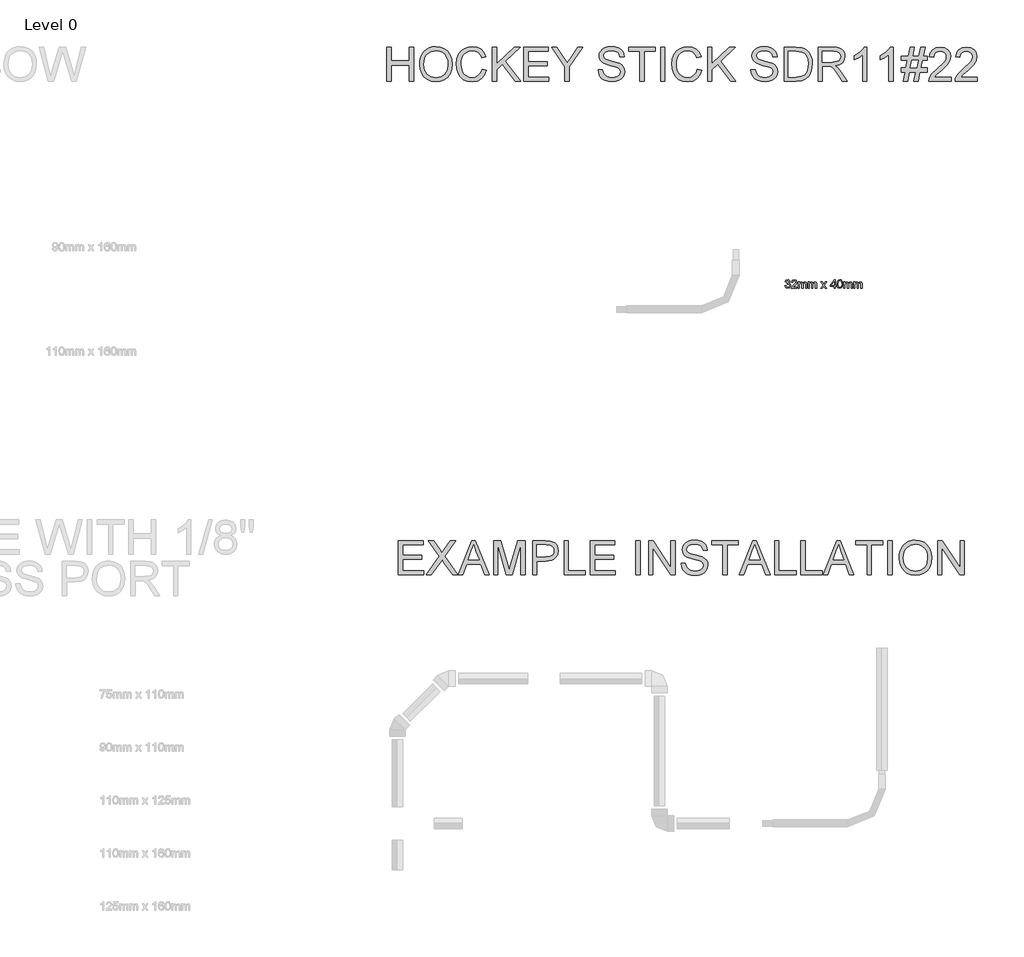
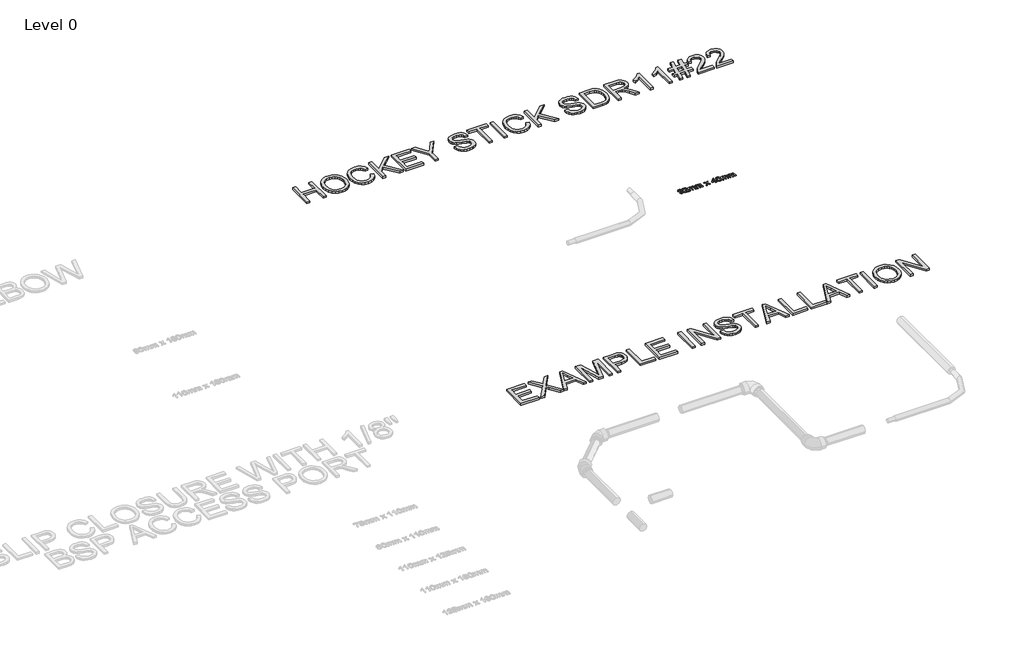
# One storey, part 18 of 21: 3 proxies.
"""IFC4 building model written with IfcOpenShell, lengths in millimetres."""

from ifc_helpers import new_model, si_unit, origin, origin_with_axes, place, context, project, spatial, polyline, outline, extrude, element, save

model = new_model("IFC4")

# Units and contexts
model_context = context("Model", 3, world=origin())
ifc_project = project(units=[si_unit("LENGTHUNIT", "METRE", prefix="MILLI")], contexts=[model_context])

# Site, building, storey
site = spatial("IfcSite", under=ifc_project)
building = spatial("IfcBuilding", under=site)
storey = spatial("IfcBuildingStorey", under=building, Name="Level 0", Elevation=0.0)

# Proxies
placement = place(None, origin())
element("IfcBuildingElementProxy", 1, Name="200mm Arial", ObjectType="200mm Arial", at=placement, inside=storey, context=model_context, shape_type="SweptSolid", body=[
    extrude(outline(polyline([(228.9000811, -1553.2112631), (228.9000811, -1352.2986428), (254.0141586, -1352.2986428), (254.0141586, -1433.9193948), (360.7489882, -1433.9193948), (360.7489882, -1352.2986428), (385.8630657, -1352.2986428), (385.8630657, -1553.2112631), (360.7489882, -1553.2112631), (360.7489882, -1459.0334723), (254.0141586, -1459.0334723), (254.0141586, -1553.2112631), (228.9000811, -1553.2112631)])), origin_with_axes(), (0.0, 0.0, 1.0), 15.0),
    extrude(outline(polyline([(420.3949223, -1455.4037033), (422.0687854, -1431.8377958), (427.0903746, -1410.975821), (435.45969, -1392.8177789), (447.1767316, -1377.3636694), (461.5394578, -1365.0242941), (477.8458272, -1356.2104547), (496.0958399, -1350.922151), (516.2894957, -1349.1593831), (542.6421093, -1352.4703211), (566.2723961, -1362.4031349), (585.8927692, -1378.2588489), (600.2156416, -1399.3384872), (608.971233, -1424.624243), (611.8897635, -1453.0983095), (608.8179489, -1481.9525206), (599.6025049, -1507.5938957), (584.752335, -1528.7103222), (564.7763427, -1543.9896877), (541.348391, -1553.260314), (516.1423429, -1556.3505228), (489.3850591, -1552.9353516), (465.6198822, -1542.689838), (446.0485601, -1526.5398184), (431.8728406, -1505.4111292), (423.2644019, -1481.1002607), (420.3949223, -1455.4037033)]), holes=[polyline([(445.5089998, -1455.648958), (450.5305891, -1487.0783431), (465.5953568, -1511.027461), (488.2384936, -1526.1841992), (515.9951901, -1531.2364452), (544.1565569, -1526.1351482), (566.8364819, -1510.8312572), (575.5598837, -1499.5587398), (581.790885, -1486.1463754), (586.775686, -1452.9021057), (584.6419704, -1430.6697705), (578.2408237, -1411.4540676), (567.7377927, -1395.7393751), (553.2984244, -1384.0100708), (535.879212, -1376.7076132), (516.4366485, -1374.2734606), (489.4218473, -1378.9639561), (466.4537481, -1393.0354424), (457.2904207, -1403.9845303), (450.7451869, -1418.0698122), (445.5089998, -1455.648958)])]), origin_with_axes(), (0.0, 0.0, 1.0), 15.0),
    extrude(outline(polyline([(787.6883063, -1481.7931051), (812.8023838, -1488.2678282), (801.214101, -1517.5328409), (783.0284677, -1538.9129162), (759.1406635, -1551.9911211), (730.4458678, -1556.3505228), (701.3157452, -1553.0518476), (678.1820991, -1543.1558219), (660.4501869, -1527.0058023), (647.5252661, -1504.9451453), (639.6341973, -1479.0094647), (637.0038411, -1451.234374), (639.9775539, -1421.9387045), (648.8986922, -1396.6406859), (663.3012724, -1376.1435274), (682.7193103, -1361.250438), (705.7487232, -1352.1821468), (730.9854281, -1349.1593831), (758.5213954, -1353.071195), (781.2871596, -1364.8066306), (798.571482, -1383.6421888), (809.6631241, -1408.8543682), (784.5490466, -1414.838582), (775.842506, -1396.52419), (763.9476549, -1383.9610198), (748.7173403, -1376.6953504), (730.0044095, -1374.2734606), (708.4342618, -1376.9589992), (690.7146124, -1385.0156149), (677.2685254, -1397.5971791), (668.5190653, -1413.8575633), (663.7182053, -1432.2394003), (662.1179186, -1451.1853231), (664.0125109, -1474.3864143), (669.6962877, -1494.4482457), (679.3838469, -1510.6043967), (693.2897863, -1522.0884463), (709.9609721, -1528.9494455), (727.9442703, -1531.2364452), (748.9074126, -1528.121711), (766.375676, -1518.7775083), (779.5642456, -1503.3019391), (787.6883063, -1481.7931051)])), origin_with_axes(), (0.0, 0.0, 1.0), 15.0),
    extrude(outline(polyline([(847.3342404, -1553.2112631), (847.3342404, -1352.2986428), (872.448318, -1352.2986428), (872.448318, -1450.6457628), (975.4552766, -1352.2986428), (1010.5757444, -1352.2986428), (924.0989501, -1434.9004134), (1013.7150041, -1553.2112631), (983.0091203, -1553.2112631), (906.2934615, -1451.8720362), (872.448318, -1484.1475499), (872.448318, -1553.2112631), (847.3342404, -1553.2112631)])), origin_with_axes(), (0.0, 0.0, 1.0), 15.0),
    extrude(outline(polyline([(1032.5505623, -1553.2112631), (1032.5505623, -1352.2986428), (1176.9565081, -1352.2986428), (1176.9565081, -1377.4127203), (1057.6646398, -1377.4127203), (1057.6646398, -1437.0586545), (1170.6779887, -1437.0586545), (1170.6779887, -1462.172732), (1057.6646398, -1462.172732), (1057.6646398, -1528.0971856), (1180.0957678, -1528.0971856), (1180.0957678, -1553.2112631), (1032.5505623, -1553.2112631)])), origin_with_axes(), (0.0, 0.0, 1.0), 15.0),
    extrude(outline(polyline([(1274.2735586, -1553.2112631), (1274.2735586, -1468.1078949), (1195.7920663, -1352.2986428), (1225.4188296, -1352.2986428), (1267.3083261, -1414.1518689), (1288.7435837, -1445.6916186), (1310.2278922, -1411.895526), (1348.2423651, -1352.2986428), (1377.8691284, -1352.2986428), (1299.3876361, -1468.1078949), (1299.3876361, -1553.2112631), (1274.2735586, -1553.2112631)])), origin_with_axes(), (0.0, 0.0, 1.0), 15.0),
    extrude(outline(polyline([(1468.9076595, -1484.1475499), (1494.021737, -1484.1475499), (1502.1151409, -1509.2861529), (1510.245333, -1518.1766344), (1521.8826668, -1525.1786551), (1536.1074373, -1529.7219977), (1551.9999395, -1531.2364452), (1578.2421885, -1526.650183), (1595.1892857, -1514.0440933), (1600.7565666, -1497.195098), (1596.5872373, -1481.523325), (1590.2351415, -1475.3245133), (1579.5175127, -1470.1189831), (1542.9500424, -1460.5295258), (1503.5866689, -1448.1441653), (1491.0848124, -1439.6951421), (1482.2249877, -1429.4557599), (1476.9458811, -1417.6467479), (1475.1861789, -1404.4888352), (1477.362814, -1389.7796867), (1483.8927194, -1376.0638197), (1494.6042169, -1364.4387486), (1509.325628, -1356.0019882), (1526.9962265, -1350.8700344), (1546.5552859, -1349.1593831), (1567.7452889, -1350.9497421), (1586.2865414, -1356.3208193), (1601.516856, -1365.1622499), (1612.7740451, -1377.3636694), (1619.898693, -1392.1647883), (1622.7313844, -1408.8053173), (1597.6173069, -1408.8053173), (1593.0065192, -1393.8202573), (1583.3925364, -1383.0045267), (1568.3706883, -1376.4562271), (1547.5363046, -1374.2734606), (1526.2114116, -1376.4317017), (1511.5819709, -1382.9064248), (1503.120685, -1392.4345685), (1500.3002564, -1403.7530712), (1502.2990819, -1413.4038422), (1508.2955584, -1421.1661523), (1522.471278, -1428.1068593), (1549.3021382, -1435.194719), (1593.7422832, -1447.8008087), (1608.0590242, -1456.9120195), (1618.0470203, -1468.1569458), (1623.9147382, -1481.4129604), (1625.8706441, -1496.5574358), (1623.6204326, -1512.0391365), (1616.869798, -1526.6011321), (1605.8946518, -1539.1336454), (1590.9709055, -1548.526899), (1573.0243955, -1554.3946168), (1552.9809581, -1556.3505228), (1528.375784, -1554.2413327), (1508.1238802, -1547.9137624), (1491.9922547, -1537.3432864), (1479.7479156, -1522.5053792), (1471.8875037, -1504.4301105), (1468.9076595, -1484.1475499)])), origin_with_axes(), (0.0, 0.0, 1.0), 15.0),
    extrude(outline(polyline([(1713.7699155, -1553.2112631), (1713.7699155, -1377.4127203), (1647.8454619, -1377.4127203), (1647.8454619, -1352.2986428), (1804.8084466, -1352.2986428), (1804.8084466, -1377.4127203), (1738.883993, -1377.4127203), (1738.883993, -1553.2112631), (1713.7699155, -1553.2112631)])), origin_with_axes(), (0.0, 0.0, 1.0), 15.0),
    extrude(outline(polyline([(1836.2010435, -1553.2112631), (1836.2010435, -1352.2986428), (1861.315121, -1352.2986428), (1861.315121, -1553.2112631), (1836.2010435, -1553.2112631)])), origin_with_axes(), (0.0, 0.0, 1.0), 15.0),
    extrude(outline(polyline([(2052.8099622, -1481.7931051), (2077.9240398, -1488.2678282), (2066.3357569, -1517.5328409), (2048.1501236, -1538.9129162), (2024.2623194, -1551.9911211), (1995.5675238, -1556.3505228), (1966.4374011, -1553.0518476), (1943.303755, -1543.1558219), (1925.5718428, -1527.0058023), (1912.6469221, -1504.9451453), (1904.7558533, -1479.0094647), (1902.125497, -1451.234374), (1905.0992098, -1421.9387045), (1914.0203482, -1396.6406859), (1928.4229283, -1376.1435274), (1947.8409663, -1361.250438), (1970.8703792, -1352.1821468), (1996.1070841, -1349.1593831), (2023.6430514, -1353.071195), (2046.4088155, -1364.8066306), (2063.6931379, -1383.6421888), (2074.7847801, -1408.8543682), (2049.6707025, -1414.838582), (2040.964162, -1396.52419), (2029.0693108, -1383.9610198), (2013.8389962, -1376.6953504), (1995.1260654, -1374.2734606), (1973.5559177, -1376.9589992), (1955.8362683, -1385.0156149), (1942.3901814, -1397.5971791), (1933.6407213, -1413.8575633), (1928.8398612, -1432.2394003), (1927.2395746, -1451.1853231), (1929.1341668, -1474.3864143), (1934.8179437, -1494.4482457), (1944.5055029, -1510.6043967), (1958.4114423, -1522.0884463), (1975.082628, -1528.9494455), (1993.0659262, -1531.2364452), (2014.0290686, -1528.121711), (2031.497332, -1518.7775083), (2044.6859015, -1503.3019391), (2052.8099622, -1481.7931051)])), origin_with_axes(), (0.0, 0.0, 1.0), 15.0),
    extrude(outline(polyline([(2112.4558964, -1553.2112631), (2112.4558964, -1352.2986428), (2137.5699739, -1352.2986428), (2137.5699739, -1450.6457628), (2240.5769326, -1352.2986428), (2275.6974004, -1352.2986428), (2189.2206061, -1434.9004134), (2278.8366601, -1553.2112631), (2248.1307762, -1553.2112631), (2171.4151175, -1451.8720362), (2137.5699739, -1484.1475499), (2137.5699739, -1553.2112631), (2112.4558964, -1553.2112631)])), origin_with_axes(), (0.0, 0.0, 1.0), 15.0),
    extrude(outline(polyline([(2366.7359315, -1484.1475499), (2391.850009, -1484.1475499), (2399.9434129, -1509.2861529), (2408.073605, -1518.1766344), (2419.7109388, -1525.1786551), (2433.9357092, -1529.7219977), (2449.8282114, -1531.2364452), (2476.0704604, -1526.650183), (2493.0175577, -1514.0440933), (2498.5848385, -1497.195098), (2494.4155093, -1481.523325), (2488.0634135, -1475.3245133), (2477.3457847, -1470.1189831), (2440.7783144, -1460.5295258), (2401.4149409, -1448.1441653), (2388.9130844, -1439.6951421), (2380.0532597, -1429.4557599), (2374.7741531, -1417.6467479), (2373.0144508, -1404.4888352), (2375.191086, -1389.7796867), (2381.7209914, -1376.0638197), (2392.4324888, -1364.4387486), (2407.1539, -1356.0019882), (2424.8244985, -1350.8700344), (2444.3835579, -1349.1593831), (2465.5735608, -1350.9497421), (2484.1148134, -1356.3208193), (2499.345128, -1365.1622499), (2510.602317, -1377.3636694), (2517.726965, -1392.1647883), (2520.5596564, -1408.8053173), (2495.4455788, -1408.8053173), (2490.8347912, -1393.8202573), (2481.2208084, -1383.0045267), (2466.1989602, -1376.4562271), (2445.3645766, -1374.2734606), (2424.0396836, -1376.4317017), (2409.4102429, -1382.9064248), (2400.948957, -1392.4345685), (2398.1285284, -1403.7530712), (2400.1273539, -1413.4038422), (2406.1238304, -1421.1661523), (2420.29955, -1428.1068593), (2447.1304101, -1435.194719), (2491.5705552, -1447.8008087), (2505.8872961, -1456.9120195), (2515.8752923, -1468.1569458), (2521.7430101, -1481.4129604), (2523.6989161, -1496.5574358), (2521.4487045, -1512.0391365), (2514.6980699, -1526.6011321), (2503.7229237, -1539.1336454), (2488.7991775, -1548.526899), (2470.8526675, -1554.3946168), (2450.8092301, -1556.3505228), (2426.204056, -1554.2413327), (2405.9521521, -1547.9137624), (2389.8205267, -1537.3432864), (2377.5761876, -1522.5053792), (2369.7157756, -1504.4301105), (2366.7359315, -1484.1475499)])), origin_with_axes(), (0.0, 0.0, 1.0), 15.0),
    extrude(outline(polyline([(2561.3700324, -1553.2112631), (2561.3700324, -1352.2986428), (2630.6790003, -1352.2986428), (2666.5352321, -1355.1926478), (2682.5503616, -1360.7721914), (2696.0638935, -1369.5645711), (2709.9575702, -1384.8684621), (2719.8535959, -1403.900224), (2725.776496, -1426.2919748), (2727.7507961, -1451.6758324), (2722.4042444, -1492.2164283), (2708.6699832, -1521.4753096), (2690.3249344, -1539.6977311), (2666.3145029, -1549.7776978), (2634.0144637, -1553.2112631), (2561.3700324, -1553.2112631)]), holes=[polyline([(2586.4841099, -1528.0971856), (2630.9242549, -1528.0971856), (2663.2488196, -1524.4674165), (2681.888174, -1514.2157716), (2690.6131086, -1503.3448586), (2697.1675395, -1489.2733723), (2701.2694238, -1471.939999), (2702.6367185, -1451.283425), (2699.9573113, -1423.9130045), (2691.9190897, -1403.7040203), (2680.0426327, -1389.8226063), (2665.848519, -1381.4348968), (2630.2375419, -1377.4127203), (2586.4841099, -1377.4127203), (2586.4841099, -1528.0971856)])]), origin_with_axes(), (0.0, 0.0, 1.0), 15.0),
    extrude(outline(polyline([(2762.2826527, -1553.2112631), (2762.2826527, -1352.2986428), (2848.8575489, -1352.2986428), (2872.1260851, -1353.6536748), (2889.0547882, -1357.7187709), (2901.427886, -1365.2235636), (2911.0296061, -1376.8976855), (2917.1916295, -1391.373842), (2919.2456373, -1407.2847383), (2915.8427288, -1427.0767897), (2905.6340035, -1443.4843267), (2888.3128929, -1455.5140679), (2863.5728287, -1462.172732), (2877.8466501, -1472.9148863), (2898.2027872, -1498.7647278), (2931.7045742, -1553.2112631), (2902.5192692, -1553.2112631), (2876.3751221, -1511.5670212), (2857.490513, -1484.0003971), (2844.2222357, -1470.9773744), (2832.2783336, -1466.1949085), (2817.7102066, -1465.3119917), (2787.3967302, -1465.3119917), (2787.3967302, -1553.2112631), (2762.2826527, -1553.2112631)]), holes=[polyline([(2787.3967302, -1440.1979142), (2843.6090991, -1440.1979142), (2872.2793692, -1436.6417216), (2881.709411, -1432.0186711), (2888.5642789, -1425.2619052), (2894.1315597, -1408.2167061), (2891.476678, -1395.9662356), (2883.5120328, -1386.0947354), (2869.8084285, -1379.5832241), (2849.9366694, -1377.4127203), (2787.3967302, -1377.4127203), (2787.3967302, -1440.1979142)])]), origin_with_axes(), (0.0, 0.0, 1.0), 15.0),
    extrude(outline(polyline([(3047.9552847, -1553.2112631), (3022.8412071, -1553.2112631), (3022.8412071, -1396.6406859), (2999.0515048, -1413.5877832), (2972.613052, -1426.2674493), (2972.613052, -1402.5267979), (3009.425777, -1379.0314011), (3022.8963894, -1365.4565555), (3031.7684769, -1352.2986428), (3047.9552847, -1352.2986428), (3047.9552847, -1553.2112631)])), origin_with_axes(), (0.0, 0.0, 1.0), 15.0),
    extrude(outline(polyline([(3201.7790096, -1553.2112631), (3176.664932, -1553.2112631), (3176.664932, -1396.6406859), (3152.8752297, -1413.5877832), (3126.436777, -1426.2674493), (3126.436777, -1402.5267979), (3163.2495019, -1379.0314011), (3176.7201143, -1365.4565555), (3185.5922018, -1352.2986428), (3201.7790096, -1352.2986428), (3201.7790096, -1553.2112631)])), origin_with_axes(), (0.0, 0.0, 1.0), 15.0),
    extrude(outline(polyline([(3261.4249437, -1553.2112631), (3272.2651999, -1499.8438483), (3248.867905, -1499.8438483), (3248.867905, -1474.7297708), (3277.3664969, -1474.7297708), (3286.2937666, -1430.7801351), (3248.867905, -1430.7801351), (3248.867905, -1405.6660576), (3291.3950636, -1405.6660576), (3302.2353197, -1352.2986428), (3327.6927538, -1352.2986428), (3316.8524977, -1405.6660576), (3353.78785, -1405.6660576), (3364.6281061, -1352.2986428), (3390.1345911, -1352.2986428), (3379.294335, -1405.6660576), (3402.6916299, -1405.6660576), (3402.6916299, -1430.7801351), (3374.193038, -1430.7801351), (3365.2657682, -1474.7297708), (3402.6916299, -1474.7297708), (3402.6916299, -1499.8438483), (3360.1644712, -1499.8438483), (3349.3242151, -1553.2112631), (3323.8177301, -1553.2112631), (3334.6579862, -1499.8438483), (3297.7716849, -1499.8438483), (3286.9314287, -1553.2112631), (3261.4249437, -1553.2112631)]), holes=[polyline([(3302.8729819, -1474.7297708), (3339.7592832, -1474.7297708), (3348.686553, -1430.7801351), (3311.7512007, -1430.7801351), (3302.8729819, -1474.7297708)])]), origin_with_axes(), (0.0, 0.0, 1.0), 15.0),
    extrude(outline(polyline([(3543.958316, -1528.0971856), (3543.958316, -1553.2112631), (3412.109409, -1553.2112631), (3414.8072103, -1535.8962839), (3430.0620503, -1509.2371019), (3461.5036982, -1480.1253734), (3504.8647227, -1438.2849278), (3512.9949148, -1423.8639536), (3515.7049788, -1409.8353868), (3513.1481989, -1397.259954), (3505.4778593, -1386.8059739), (3493.6872414, -1379.7610337), (3478.7696265, -1377.4127203), (3463.1039849, -1379.7058514), (3450.9332222, -1386.5852447), (3443.0789416, -1397.51134), (3440.3627462, -1411.9445769), (3415.2486686, -1408.8053173), (3421.3371157, -1384.5128428), (3434.5011597, -1366.7686679), (3454.0540878, -1355.9161491), (3479.3091867, -1352.2986428), (3504.7482267, -1356.3208193), (3524.2643665, -1368.3873487), (3536.6803839, -1386.4135665), (3540.8190563, -1408.3148079), (3536.3554215, -1432.1290357), (3521.5175143, -1456.752604), (3485.5386552, -1491.1618332), (3456.6476558, -1515.3194176), (3445.3168904, -1528.0971856), (3543.958316, -1528.0971856)])), origin_with_axes(), (0.0, 0.0, 1.0), 15.0),
    extrude(outline(polyline([(3697.7820409, -1528.0971856), (3697.7820409, -1553.2112631), (3565.9331339, -1553.2112631), (3568.6309352, -1535.8962839), (3583.8857752, -1509.2371019), (3615.3274231, -1480.1253734), (3658.6884476, -1438.2849278), (3666.8186397, -1423.8639536), (3669.5287037, -1409.8353868), (3666.9719238, -1397.259954), (3659.3015842, -1386.8059739), (3647.5109663, -1379.7610337), (3632.5933514, -1377.4127203), (3616.9277098, -1379.7058514), (3604.7569471, -1386.5852447), (3596.9026665, -1397.51134), (3594.1864711, -1411.9445769), (3569.0723936, -1408.8053173), (3575.1608406, -1384.5128428), (3588.3248846, -1366.7686679), (3607.8778127, -1355.9161491), (3633.1329117, -1352.2986428), (3658.5719516, -1356.3208193), (3678.0880915, -1368.3873487), (3690.5041088, -1386.4135665), (3694.6427812, -1408.3148079), (3690.1791464, -1432.1290357), (3675.3412392, -1456.752604), (3639.3623801, -1491.1618332), (3610.4713808, -1515.3194176), (3599.1406153, -1528.0971856), (3697.7820409, -1528.0971856)])), origin_with_axes(), (0.0, 0.0, 1.0), 15.0),
])
element("IfcBuildingElementProxy", 2, Name="200mm Arial", ObjectType="200mm Arial", at=placement, inside=storey, context=model_context, shape_type="SweptSolid", body=[
    extrude(outline(polyline([(296.3941645, -4453.2112631), (296.3941645, -4252.2986428), (440.8001103, -4252.2986428), (440.8001103, -4277.4127203), (321.508242, -4277.4127203), (321.508242, -4337.0586545), (434.5215909, -4337.0586545), (434.5215909, -4362.172732), (321.508242, -4362.172732), (321.508242, -4428.0971856), (443.93937, -4428.0971856), (443.93937, -4453.2112631), (296.3941645, -4453.2112631)])), origin_with_axes(), (0.0, 0.0, 1.0), 15.0),
    extrude(outline(polyline([(459.6356685, -4453.2112631), (537.0870912, -4343.7295813), (472.1927072, -4252.2986428), (502.3099799, -4252.2986428), (538.8529248, -4303.7530712), (551.1647089, -4323.8149027), (565.5856831, -4303.4097147), (601.7362205, -4252.2986428), (632.2949515, -4252.2986428), (567.4005676, -4344.0238869), (644.8519903, -4453.2112631), (614.7347176, -4453.2112631), (563.1331364, -4380.419679), (552.3909822, -4365.3119917), (540.5697074, -4381.891207), (490.1943995, -4453.2112631), (459.6356685, -4453.2112631)])), origin_with_axes(), (0.0, 0.0, 1.0), 15.0),
    extrude(outline(polyline([(646.5687729, -4453.2112631), (726.7670479, -4252.2986428), (748.1532545, -4252.2986428), (828.3515295, -4453.2112631), (801.8149749, -4453.2112631), (778.8100875, -4390.4260692), (696.061164, -4390.4260692), (673.1053275, -4453.2112631), (646.5687729, -4453.2112631)]), holes=[polyline([(705.2827394, -4365.3119917), (769.6375631, -4365.3119917), (751.5377689, -4315.9177025), (737.4601512, -4277.4127203), (724.9521634, -4311.6012204), (705.2827394, -4365.3119917)])]), origin_with_axes(), (0.0, 0.0, 1.0), 15.0),
    extrude(outline(polyline([(855.1823897, -4453.2112631), (855.1823897, -4252.2986428), (898.3962614, -4252.2986428), (939.500943, -4393.9086855), (947.7905506, -4423.4863979), (956.7668713, -4391.4561388), (997.1848398, -4252.2986428), (1040.3987115, -4252.2986428), (1040.3987115, -4453.2112631), (1015.284634, -4453.2112631), (1015.284634, -4277.4127203), (964.8112242, -4453.2112631), (930.769877, -4453.2112631), (880.2964672, -4277.4127203), (880.2964672, -4453.2112631), (855.1823897, -4453.2112631)])), origin_with_axes(), (0.0, 0.0, 1.0), 15.0),
    extrude(outline(polyline([(1084.3483472, -4453.2112631), (1084.3483472, -4252.2986428), (1158.807663, -4252.2986428), (1188.8268338, -4254.2116292), (1213.2296728, -4263.6048828), (1222.1017603, -4271.9312786), (1229.0485986, -4283.0290521), (1233.536759, -4296.1195198), (1235.0328124, -4310.423998), (1230.9922418, -4334.1033358), (1218.8705301, -4353.8340735), (1209.163044, -4361.6025149), (1196.2028678, -4367.1514017), (1160.5244457, -4371.5905111), (1109.4624247, -4371.5905111), (1109.4624247, -4453.2112631), (1084.3483472, -4453.2112631)]), holes=[polyline([(1109.4624247, -4346.4764336), (1161.9959737, -4346.4764336), (1184.2650971, -4344.1710397), (1198.9803769, -4337.2548582), (1207.1841454, -4326.1570847), (1209.9187349, -4311.3069148), (1208.3061855, -4300.0252003), (1203.4685372, -4290.5093194), (1196.0066641, -4283.3478832), (1186.52144, -4279.129503), (1161.4073625, -4277.4127203), (1109.4624247, -4277.4127203), (1109.4624247, -4346.4764336)])]), origin_with_axes(), (0.0, 0.0, 1.0), 15.0),
    extrude(outline(polyline([(1269.564669, -4453.2112631), (1269.564669, -4252.2986428), (1294.6787466, -4252.2986428), (1294.6787466, -4428.0971856), (1395.1350567, -4428.0971856), (1395.1350567, -4453.2112631), (1269.564669, -4453.2112631)])), origin_with_axes(), (0.0, 0.0, 1.0), 15.0),
    extrude(outline(polyline([(1423.388394, -4453.2112631), (1423.388394, -4252.2986428), (1567.7943398, -4252.2986428), (1567.7943398, -4277.4127203), (1448.5024715, -4277.4127203), (1448.5024715, -4337.0586545), (1561.5158204, -4337.0586545), (1561.5158204, -4362.172732), (1448.5024715, -4362.172732), (1448.5024715, -4428.0971856), (1570.9335995, -4428.0971856), (1570.9335995, -4453.2112631), (1423.388394, -4453.2112631)])), origin_with_axes(), (0.0, 0.0, 1.0), 15.0),
    extrude(outline(polyline([(1690.2254678, -4453.2112631), (1690.2254678, -4252.2986428), (1715.3395453, -4252.2986428), (1715.3395453, -4453.2112631), (1690.2254678, -4453.2112631)])), origin_with_axes(), (0.0, 0.0, 1.0), 15.0),
    extrude(outline(polyline([(1765.5677004, -4453.2112631), (1765.5677004, -4252.2986428), (1792.4476115, -4252.2986428), (1897.4166075, -4411.4689194), (1897.4166075, -4252.2986428), (1922.530685, -4252.2986428), (1922.530685, -4453.2112631), (1895.6507739, -4453.2112631), (1790.6817779, -4293.9919356), (1790.6817779, -4453.2112631), (1765.5677004, -4453.2112631)])), origin_with_axes(), (0.0, 0.0, 1.0), 15.0),
    extrude(outline(polyline([(1957.0625416, -4384.1475499), (1982.1766192, -4384.1475499), (1990.2700231, -4409.2861529), (1998.4002152, -4418.1766344), (2010.0375489, -4425.1786551), (2024.2623194, -4429.7219977), (2040.1548216, -4431.2364452), (2066.3970706, -4426.650183), (2083.3441678, -4414.0440933), (2088.9114487, -4397.195098), (2084.7421194, -4381.523325), (2078.3900236, -4375.3245133), (2067.6723948, -4370.1189831), (2031.1049245, -4360.5295258), (1991.741551, -4348.1441653), (1979.2396946, -4339.6951421), (1970.3798699, -4329.4557599), (1965.1007632, -4317.6467479), (1963.341061, -4304.4888352), (1965.5176962, -4289.7796867), (1972.0476016, -4276.0638197), (1982.759099, -4264.4387486), (1997.4805102, -4256.0019882), (2015.1511087, -4250.8700344), (2034.7101681, -4249.1593831), (2055.900171, -4250.9497421), (2074.4414236, -4256.3208193), (2089.6717382, -4265.1622499), (2100.9289272, -4277.3636694), (2108.0535752, -4292.1647883), (2110.8862665, -4308.8053173), (2085.772189, -4308.8053173), (2081.1614013, -4293.8202573), (2071.5474185, -4283.0045267), (2056.5255704, -4276.4562271), (2035.6911867, -4274.2734606), (2014.3662937, -4276.4317017), (1999.7368531, -4282.9064248), (1991.2755672, -4292.4345685), (1988.4551386, -4303.7530712), (1990.4539641, -4313.4038422), (1996.4504406, -4321.1661523), (2010.6261601, -4328.1068593), (2037.4570203, -4335.194719), (2081.8971653, -4347.8008087), (2096.2139063, -4356.9120195), (2106.2019025, -4368.1569458), (2112.0696203, -4381.4129604), (2114.0255262, -4396.5574358), (2111.7753147, -4412.0391365), (2105.0246801, -4426.6011321), (2094.0495339, -4439.1336454), (2079.1257876, -4448.526899), (2061.1792776, -4454.3946168), (2041.1358403, -4456.3505228), (2016.5306661, -4454.2413327), (1996.2787623, -4447.9137624), (1980.1471368, -4437.3432864), (1967.9027978, -4422.5053792), (1960.0423858, -4404.4301105), (1957.0625416, -4384.1475499)])), origin_with_axes(), (0.0, 0.0, 1.0), 15.0),
    extrude(outline(polyline([(2201.9247976, -4453.2112631), (2201.9247976, -4277.4127203), (2136.0003441, -4277.4127203), (2136.0003441, -4252.2986428), (2292.9633287, -4252.2986428), (2292.9633287, -4277.4127203), (2227.0388752, -4277.4127203), (2227.0388752, -4453.2112631), (2201.9247976, -4453.2112631)])), origin_with_axes(), (0.0, 0.0, 1.0), 15.0),
    extrude(outline(polyline([(2297.819371, -4453.2112631), (2378.017646, -4252.2986428), (2399.4038526, -4252.2986428), (2479.6021276, -4453.2112631), (2453.065573, -4453.2112631), (2430.0606856, -4390.4260692), (2347.3117621, -4390.4260692), (2324.3559256, -4453.2112631), (2297.819371, -4453.2112631)]), holes=[polyline([(2356.5333375, -4365.3119917), (2420.8881611, -4365.3119917), (2402.788367, -4315.9177025), (2388.7107493, -4277.4127203), (2376.2027615, -4311.6012204), (2356.5333375, -4365.3119917)])]), origin_with_axes(), (0.0, 0.0, 1.0), 15.0),
    extrude(outline(polyline([(2506.4329878, -4453.2112631), (2506.4329878, -4252.2986428), (2531.5470653, -4252.2986428), (2531.5470653, -4428.0971856), (2632.0033754, -4428.0971856), (2632.0033754, -4453.2112631), (2506.4329878, -4453.2112631)])), origin_with_axes(), (0.0, 0.0, 1.0), 15.0),
    extrude(outline(polyline([(2660.2567127, -4453.2112631), (2660.2567127, -4252.2986428), (2685.3707902, -4252.2986428), (2685.3707902, -4428.0971856), (2785.8271004, -4428.0971856), (2785.8271004, -4453.2112631), (2660.2567127, -4453.2112631)])), origin_with_axes(), (0.0, 0.0, 1.0), 15.0),
    extrude(outline(polyline([(2790.6831427, -4453.2112631), (2870.8814176, -4252.2986428), (2892.2676243, -4252.2986428), (2972.4658992, -4453.2112631), (2945.9293447, -4453.2112631), (2922.9244572, -4390.4260692), (2840.1755338, -4390.4260692), (2817.2196973, -4453.2112631), (2790.6831427, -4453.2112631)]), holes=[polyline([(2849.3971091, -4365.3119917), (2913.7519328, -4365.3119917), (2895.6521387, -4315.9177025), (2881.574521, -4277.4127203), (2869.0665331, -4311.6012204), (2849.3971091, -4365.3119917)])]), origin_with_axes(), (0.0, 0.0, 1.0), 15.0),
    extrude(outline(polyline([(3049.5249145, -4453.2112631), (3049.5249145, -4277.4127203), (2983.600461, -4277.4127203), (2983.600461, -4252.2986428), (3140.5634456, -4252.2986428), (3140.5634456, -4277.4127203), (3074.638992, -4277.4127203), (3074.638992, -4453.2112631), (3049.5249145, -4453.2112631)])), origin_with_axes(), (0.0, 0.0, 1.0), 15.0),
    extrude(outline(polyline([(3171.9560425, -4453.2112631), (3171.9560425, -4252.2986428), (3197.07012, -4252.2986428), (3197.07012, -4453.2112631), (3171.9560425, -4453.2112631)])), origin_with_axes(), (0.0, 0.0, 1.0), 15.0),
    extrude(outline(polyline([(3237.880496, -4355.4037033), (3239.5543591, -4331.8377958), (3244.5759483, -4310.975821), (3252.9452637, -4292.8177789), (3264.6623053, -4277.3636694), (3279.0250315, -4265.0242941), (3295.331401, -4256.2104547), (3313.5814136, -4250.922151), (3333.7750694, -4249.1593831), (3360.127683, -4252.4703211), (3383.7579699, -4262.4031349), (3403.3783429, -4278.2588489), (3417.7012153, -4299.3384872), (3426.4568068, -4324.624243), (3429.3753373, -4353.0983095), (3426.3035226, -4381.9525206), (3417.0880786, -4407.5938957), (3402.2379087, -4428.7103222), (3382.2619164, -4443.9896877), (3358.8339647, -4453.260314), (3333.6279166, -4456.3505228), (3306.8706329, -4452.9353516), (3283.105456, -4442.689838), (3263.5341338, -4426.5398184), (3249.3584143, -4405.4111292), (3240.7499756, -4381.1002607), (3237.880496, -4355.4037033)]), holes=[polyline([(3262.9945736, -4355.648958), (3268.0161628, -4387.0783431), (3283.0809305, -4411.027461), (3305.7240673, -4426.1841992), (3333.4807638, -4431.2364452), (3361.6421306, -4426.1351482), (3384.3220556, -4410.8312572), (3393.0454574, -4399.5587398), (3399.2764587, -4386.1463754), (3404.2612597, -4352.9021057), (3402.1275441, -4330.6697705), (3395.7263974, -4311.4540676), (3385.2233665, -4295.7393751), (3370.7839982, -4284.0100708), (3353.3647857, -4276.7076132), (3333.9222222, -4274.2734606), (3306.9074211, -4278.9639561), (3283.9393218, -4293.0354424), (3274.7759945, -4303.9845303), (3268.2307606, -4318.0698122), (3262.9945736, -4355.648958)])]), origin_with_axes(), (0.0, 0.0, 1.0), 15.0),
    extrude(outline(polyline([(3463.9071939, -4453.2112631), (3463.9071939, -4252.2986428), (3490.787105, -4252.2986428), (3595.7561009, -4411.4689194), (3595.7561009, -4252.2986428), (3620.8701785, -4252.2986428), (3620.8701785, -4453.2112631), (3593.9902674, -4453.2112631), (3489.0212714, -4293.9919356), (3489.0212714, -4453.2112631), (3463.9071939, -4453.2112631)])), origin_with_axes(), (0.0, 0.0, 1.0), 15.0),
])
element("IfcBuildingElementProxy", 3, Name="50mm", ObjectType="50mm", at=placement, inside=storey, context=model_context, shape_type="SweptSolid", body=[
    extrude(outline(polyline([(2566.9958508, -2755.7605095), (2573.2743702, -2754.9756946), (2576.7385924, -2761.5853078), (2583.2194468, -2763.6086588), (2590.8468669, -2760.8250183), (2593.6795582, -2753.9333623), (2590.8713923, -2747.4402451), (2583.7344816, -2744.8712025), (2579.3321604, -2745.5579155), (2580.0311362, -2739.2793962), (2588.1613283, -2737.5503508), (2591.3251135, -2732.0075954), (2589.0319824, -2727.0963707), (2583.121345, -2725.1527275), (2577.1371312, -2727.1147648), (2574.0591852, -2733.0008768), (2567.7806658, -2732.2160618), (2572.918751, -2722.3690871), (2582.9006158, -2718.8742082), (2590.4728535, -2720.5971222), (2595.7703542, -2725.3060117), (2597.6036328, -2731.6397134), (2595.8623247, -2737.4277234), (2590.7119768, -2741.58479), (2597.5545819, -2745.8767466), (2599.9580776, -2754.0437269), (2595.1510862, -2765.2763905), (2582.9987176, -2769.8871782), (2571.9867832, -2765.9508408), (2566.9958508, -2755.7605095)])), origin_with_axes(), (0.0, 0.0, 1.0), 5.0),
    extrude(outline(polyline([(2637.6291939, -2762.8238438), (2637.6291939, -2769.1023632), (2604.6669672, -2769.1023632), (2605.3414175, -2764.7736184), (2609.1551275, -2758.1088229), (2617.0155395, -2750.8308908), (2627.8557956, -2740.3707794), (2630.5658596, -2733.2583942), (2628.0090797, -2727.5010409), (2621.3320215, -2725.1527275), (2614.3729205, -2727.4458586), (2611.7303015, -2733.7856917), (2605.4517821, -2733.0008768), (2610.2649048, -2722.4917144), (2621.4669116, -2718.8742082), (2632.7057066, -2722.8963846), (2636.844379, -2732.8782494), (2635.7284703, -2738.8318064), (2632.0189935, -2744.9876984), (2623.0242787, -2753.5900058), (2615.8015289, -2759.6294019), (2612.9688375, -2762.8238438), (2637.6291939, -2762.8238438)])), origin_with_axes(), (0.0, 0.0, 1.0), 5.0),
    extrude(outline(polyline([(2645.4773432, -2769.1023632), (2645.4773432, -2732.2160618), (2651.7558625, -2732.2160618), (2651.7558625, -2738.2861148), (2656.0723446, -2733.3135765), (2662.2159739, -2731.4312469), (2668.5067561, -2733.3503647), (2671.9648468, -2738.7275732), (2676.8638087, -2733.2553285), (2683.0503576, -2731.4312469), (2691.2602575, -2734.4662734), (2694.1358684, -2743.8166074), (2694.1358684, -2769.1023632), (2687.857349, -2769.1023632), (2687.857349, -2746.5144087), (2687.2748692, -2741.2720903), (2685.1656791, -2738.690785), (2681.5788296, -2737.7097663), (2675.4045435, -2740.2236266), (2672.9458655, -2748.2802423), (2672.9458655, -2769.1023632), (2666.6673461, -2769.1023632), (2666.6673461, -2745.8154329), (2665.2142122, -2739.7331173), (2660.4501404, -2737.7097663), (2655.8025645, -2739.058667), (2652.7123557, -2743.007267), (2651.7558625, -2750.499797), (2651.7558625, -2769.1023632), (2645.4773432, -2769.1023632)])), origin_with_axes(), (0.0, 0.0, 1.0), 5.0),
    extrude(outline(polyline([(2703.5536475, -2769.1023632), (2703.5536475, -2732.2160618), (2709.8321668, -2732.2160618), (2709.8321668, -2738.2861148), (2714.1486489, -2733.3135765), (2720.2922782, -2731.4312469), (2726.5830604, -2733.3503647), (2730.0411511, -2738.7275732), (2734.940113, -2733.2553285), (2741.1266619, -2731.4312469), (2749.3365618, -2734.4662734), (2752.2121727, -2743.8166074), (2752.2121727, -2769.1023632), (2745.9336533, -2769.1023632), (2745.9336533, -2746.5144087), (2745.3511735, -2741.2720903), (2743.2419834, -2738.690785), (2739.6551339, -2737.7097663), (2733.4808478, -2740.2236266), (2731.0221698, -2748.2802423), (2731.0221698, -2769.1023632), (2724.7436504, -2769.1023632), (2724.7436504, -2745.8154329), (2723.2905165, -2739.7331173), (2718.5264447, -2737.7097663), (2713.8788688, -2739.058667), (2710.78866, -2743.007267), (2709.8321668, -2750.499797), (2709.8321668, -2769.1023632), (2703.5536475, -2769.1023632)])), origin_with_axes(), (0.0, 0.0, 1.0), 5.0),
    extrude(outline(polyline([(2777.3262502, -2769.1023632), (2790.7416803, -2750.5611107), (2778.1110651, -2732.2160618), (2785.6649088, -2732.2160618), (2791.7594872, -2741.0452297), (2794.6044413, -2745.214559), (2797.0692506, -2741.8055192), (2804.0099576, -2732.2160618), (2811.5638012, -2732.2160618), (2798.2955239, -2750.5611107), (2811.0732919, -2769.1023632), (2803.5194483, -2769.1023632), (2795.8307146, -2757.9555388), (2794.4205003, -2755.9199251), (2784.8800939, -2769.1023632), (2777.3262502, -2769.1023632)])), origin_with_axes(), (0.0, 0.0, 1.0), 5.0),
    extrude(outline(polyline([(2855.0229276, -2769.1023632), (2855.0229276, -2757.3301394), (2832.2632948, -2757.3301394), (2832.2632948, -2751.05162), (2856.5925575, -2719.6590231), (2861.301447, -2719.6590231), (2861.301447, -2751.05162), (2867.5799664, -2751.05162), (2867.5799664, -2757.3301394), (2861.301447, -2757.3301394), (2861.301447, -2769.1023632), (2855.0229276, -2769.1023632)]), holes=[polyline([(2855.0229276, -2751.05162), (2855.0229276, -2731.6519761), (2839.9888167, -2751.05162), (2855.0229276, -2751.05162)])]), origin_with_axes(), (0.0, 0.0, 1.0), 5.0),
    extrude(outline(polyline([(2873.0736708, -2744.3929559), (2874.9192122, -2729.9413248), (2880.4006539, -2721.6087977), (2889.5547842, -2718.8742082), (2896.8878987, -2720.4928889), (2901.9524075, -2725.1588589), (2904.8954634, -2732.5900752), (2906.0358976, -2744.3929559), (2904.2087504, -2758.7832733), (2898.7457027, -2767.1341946), (2889.5547842, -2769.8871782), (2878.076866, -2765.1047122), (2874.3244696, -2756.6097038), (2873.0736708, -2744.3929559)]), holes=[polyline([(2879.3521902, -2744.3806932), (2882.2952462, -2759.9727584), (2889.5547842, -2763.6086588), (2896.8143223, -2759.9604957), (2899.7573782, -2744.3806932), (2896.9124241, -2728.9664376), (2889.4812078, -2725.1527275), (2882.393348, -2728.5127164), (2879.3521902, -2744.3806932)])]), origin_with_axes(), (0.0, 0.0, 1.0), 5.0),
    extrude(outline(polyline([(2913.0992319, -2769.1023632), (2913.0992319, -2732.2160618), (2919.3777513, -2732.2160618), (2919.3777513, -2738.2861148), (2923.6942334, -2733.3135765), (2929.8378627, -2731.4312469), (2936.1286448, -2733.3503647), (2939.5867356, -2738.7275732), (2944.4856975, -2733.2553285), (2950.6722464, -2731.4312469), (2958.8821462, -2734.4662734), (2961.7577571, -2743.8166074), (2961.7577571, -2769.1023632), (2955.4792378, -2769.1023632), (2955.4792378, -2746.5144087), (2954.8967579, -2741.2720903), (2952.7875678, -2738.690785), (2949.2007184, -2737.7097663), (2943.0264322, -2740.2236266), (2940.5677542, -2748.2802423), (2940.5677542, -2769.1023632), (2934.2892348, -2769.1023632), (2934.2892348, -2745.8154329), (2932.836101, -2739.7331173), (2928.0720291, -2737.7097663), (2923.4244532, -2739.058667), (2920.3342445, -2743.007267), (2919.3777513, -2750.499797), (2919.3777513, -2769.1023632), (2913.0992319, -2769.1023632)])), origin_with_axes(), (0.0, 0.0, 1.0), 5.0),
    extrude(outline(polyline([(2971.1755362, -2769.1023632), (2971.1755362, -2732.2160618), (2977.4540556, -2732.2160618), (2977.4540556, -2738.2861148), (2981.7705377, -2733.3135765), (2987.914167, -2731.4312469), (2994.2049491, -2733.3503647), (2997.6630399, -2738.7275732), (3002.5620018, -2733.2553285), (3008.7485507, -2731.4312469), (3016.9584505, -2734.4662734), (3019.8340614, -2743.8166074), (3019.8340614, -2769.1023632), (3013.5555421, -2769.1023632), (3013.5555421, -2746.5144087), (3012.9730622, -2741.2720903), (3010.8638721, -2738.690785), (3007.2770227, -2737.7097663), (3001.1027365, -2740.2236266), (2998.6440585, -2748.2802423), (2998.6440585, -2769.1023632), (2992.3655391, -2769.1023632), (2992.3655391, -2745.8154329), (2990.9124053, -2739.7331173), (2986.1483334, -2737.7097663), (2981.5007575, -2739.058667), (2978.4105488, -2743.007267), (2977.4540556, -2750.499797), (2977.4540556, -2769.1023632), (2971.1755362, -2769.1023632)])), origin_with_axes(), (0.0, 0.0, 1.0), 5.0),
])

save(model, "model.ifc")
